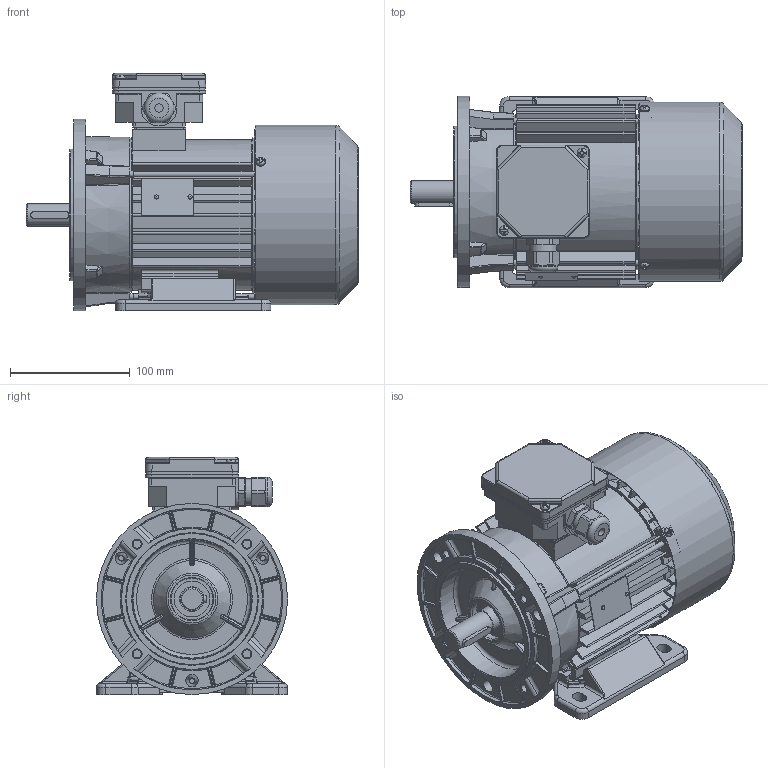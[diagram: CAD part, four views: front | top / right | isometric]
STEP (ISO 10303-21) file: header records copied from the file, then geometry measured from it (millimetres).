
FILE_DESCRIPTION(/* description */ ('Unknown'),/* implementation_level */ '2;1');
FILE_NAME(/* name */ 'SLh80-2B1',/* time_stamp */ '2019-02-13T11:45:48+01:00',/* author */ ('Klaudiusz Szlosek'),/* organization */ ('BESEL S.A.'),/* preprocessor_version */ 'ST-DEVELOPER v16.7',/* originating_system */ 'DEX',/* authorisation */ $);
FILE_SCHEMA (('AUTOMOTIVE_DESIGN {1 0 10303 214 3 1 1}'));
Products named in the file (1): Czêœæ11
Bounding box: 277.78 x 160 x 198.5 mm (x, y, z)
Volume: 1062706.6 mm3; surface area: 543769 mm2
Topology: 3 solids, 3 shells, 3076 faces, 8451 edges, 5411 vertices
Faces by surface type: plane 1350, cylinder 915, bspline 370, torus 246, cone 167, sphere 28
Full cylindrical faces by diameter (mm): 2 x2, 2.4 x2, 3.7 x8, 4 x4, 4.2 x3, 4.5 x1, 4.6 x3, 4.8 x2, 5 x5, 5.5 x3, 6.5 x4, 6.8 x4, 7 x1, 8 x9, 18.998 x1, 19.298 x1, 19.498 x1, 19.898 x1, 20.298 x2, 20.398 x2, 20.4 x2, 22.3 x1, 25 x1, 25.497 x1, 25.997 x2, 26.097 x1, 26.997 x1, 28.799 x4, 30 x1, 34 x1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
Entity records: 125772 total; most frequent: CARTESIAN_POINT 30002, ORIENTED_EDGE 16162, DIRECTION 14616, EDGE_CURVE 8081, AXIS2_PLACEMENT_3D 5430, VERTEX_POINT 5274, LINE 3756, VECTOR 3756
